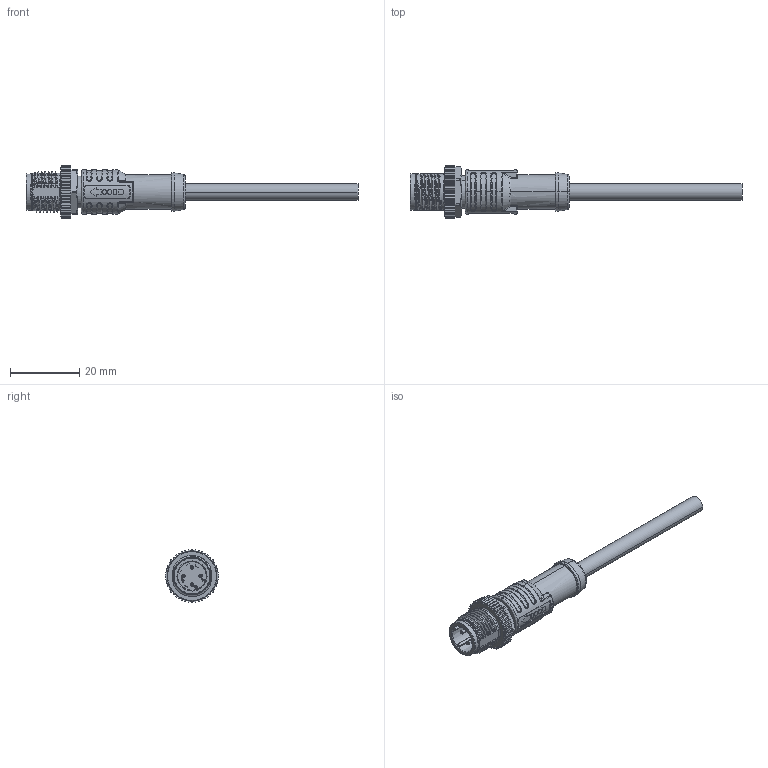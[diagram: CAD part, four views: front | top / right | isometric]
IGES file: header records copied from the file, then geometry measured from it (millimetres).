
Start section:  PTC IGES file: M12D-04BMMM-SL8EXX.igs
Global section: file name: M12D-04BMMM-SL8EXX.igs; native system: Creo Parametric by Parametric Technology Corporation; preprocessor: 2017170; author: L170024; organization: Unknown; date: 20210318.115933; units: millimetre
Bounding box: 96 x 15.5 x 15.3 mm (x, y, z)
Volume: 5243.4 mm3; surface area: 4275.9 mm2
Topology: 2 solids, 2 shells, 893 faces, 2315 edges, 1459 vertices
Faces by surface type: bspline 505, revolution 326, extrusion 62
